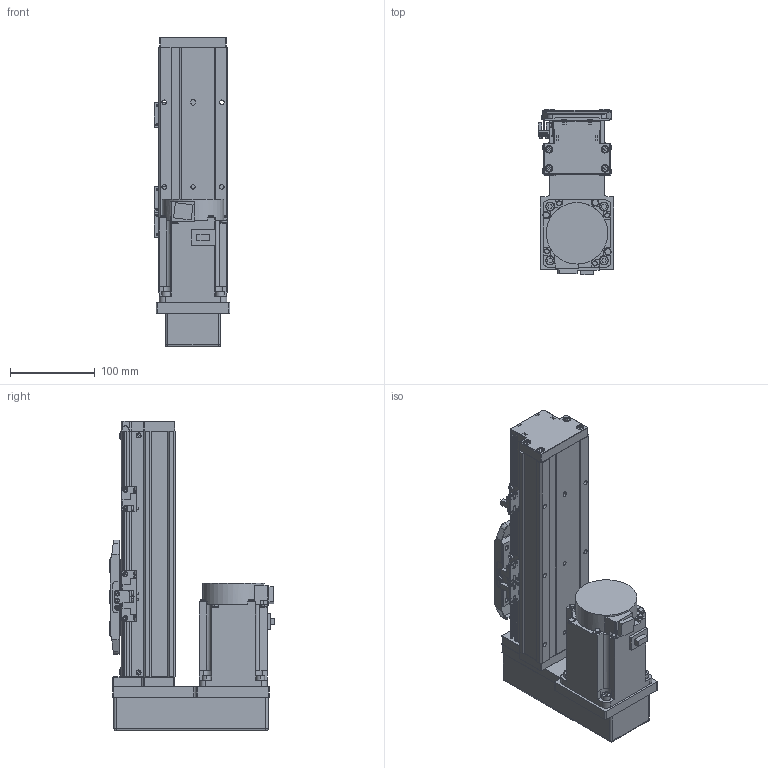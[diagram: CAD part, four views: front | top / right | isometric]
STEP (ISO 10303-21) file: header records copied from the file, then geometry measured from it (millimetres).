
FILE_DESCRIPTION (( 'STEP AP203' ), '1' );
FILE_NAME ('GTH8-100-BM-M75-C4.step', '2023-02-14T02:26:53', ( '微软用户' ), ( '微软中国' ), 'SwSTEP 2.0', 'SolidWorks 2020', '' );
FILE_SCHEMA (( 'CONFIG_CONTROL_DESIGN' ));
Length unit declared in the file: millimetre
Products named in the file (18): GTH80-022; BTH-M3X5X6; GTH80-001_100; GBT 70.1-M3℅6; CTHA86-015-3_CTHA86-015-4; GTH80-003; GBT 70.1-M4×16; CTHA86-035; GTH80-004; GTH80-028; hg-kn73j_-s100; GTH80-006; GTH50-024; GTH8-100-BM-M75-C4; GTH80-013; GTH50-023; GBT 70.3-M3℅6; GBT96.1-2002 3×0.8
Assembly tree (57 placements, depth 2):
  GTH8-100-BM-M75-C4
    GTH80-001_100
    GTH80-003
    GTH80-004
    GTH80-006
    GTH80-013
    GBT 70.3-M3℅6  x4
    GTH80-022
    GBT 70.1-M3℅6  x14
    GBT 70.1-M4×16  x8
    GTH80-028  x2
    GTH50-024  x3
    GTH50-023  x3
    GBT96.1-2002 3×0.8  x6
    BTH-M3X5X6  x8
    CTHA86-015-3_CTHA86-015-4
    CTHA86-035
    hg-kn73j_-s100
Bounding box: 89.4 x 195.3 x 366 mm (x, y, z)
Volume: 2804956.3 mm3; surface area: 337852.9 mm2
Topology: 59 solids, 59 shells, 2175 faces, 5034 edges, 3080 vertices
Faces by surface type: plane 1153, cylinder 607, cone 243, torus 158, sphere 12, bspline 2
Entity records: 38848 total; most frequent: CARTESIAN_POINT 6527, DIRECTION 6389, ORIENTED_EDGE 5878, EDGE_CURVE 2939, AXIS2_PLACEMENT_3D 2242, LINE 1905, VECTOR 1905, VERTEX_POINT 1855
